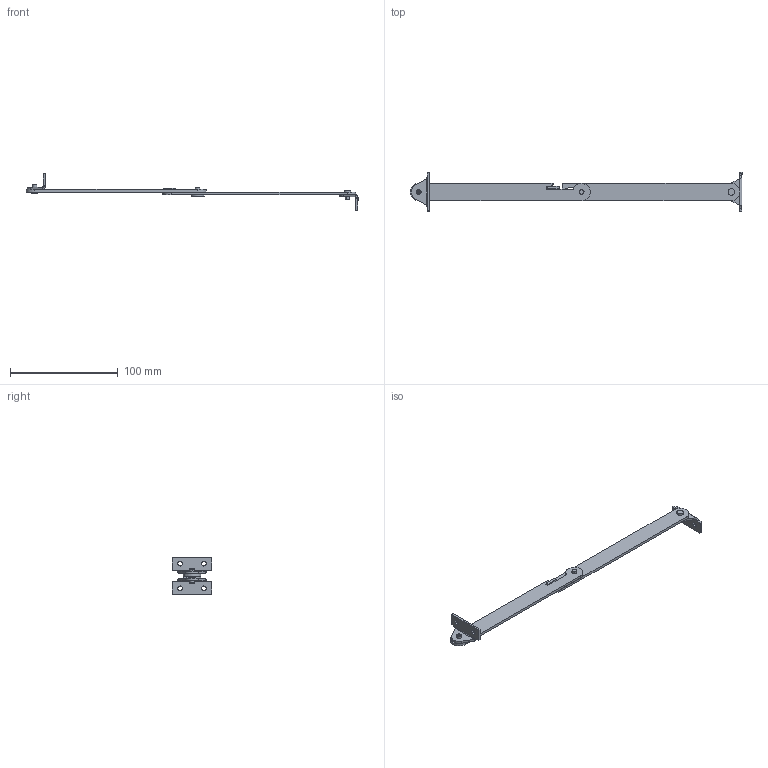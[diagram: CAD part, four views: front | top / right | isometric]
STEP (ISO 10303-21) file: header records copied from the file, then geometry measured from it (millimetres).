
FILE_DESCRIPTION (( 'STEP AP214' ), '1' );
FILE_NAME ('4.401.301.STEP', '2016-09-09T06:53:21', ( '' ), ( '' ), 'SwSTEP 2.0', 'SolidWorks 2015', '' );
FILE_SCHEMA (( 'AUTOMOTIVE_DESIGN' ));
Length unit declared in the file: millimetre
Products named in the file (6): 4.401.301.05_A; 4.401.301.04_A; 4.401.301.03_A; 4.401.301.01_301; 4.401.301; 4.401.301.02_301
Assembly tree (7 placements, depth 2):
  4.401.301
    4.401.301.01_301
    4.401.301.02_301
    4.401.301.03_A  x2
    4.401.301.04_A
    4.401.301.05_A  x2
Bounding box: 307.61 x 36.2 x 34.98 mm (x, y, z)
Volume: 16080.1 mm3; surface area: 16498.7 mm2
Topology: 7 solids, 7 shells, 138 faces, 328 edges, 206 vertices
Faces by surface type: cylinder 67, plane 54, bspline 9, cone 8
Entity records: 3064 total; most frequent: CARTESIAN_POINT 565, DIRECTION 496, ORIENTED_EDGE 448, EDGE_CURVE 224, AXIS2_PLACEMENT_3D 190, VERTEX_POINT 143, VECTOR 116, LINE 116
